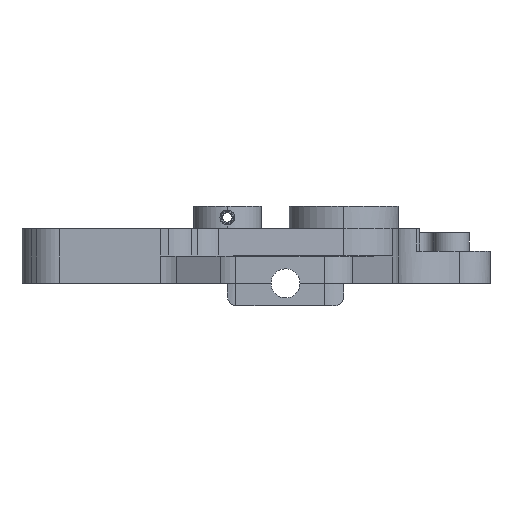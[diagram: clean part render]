
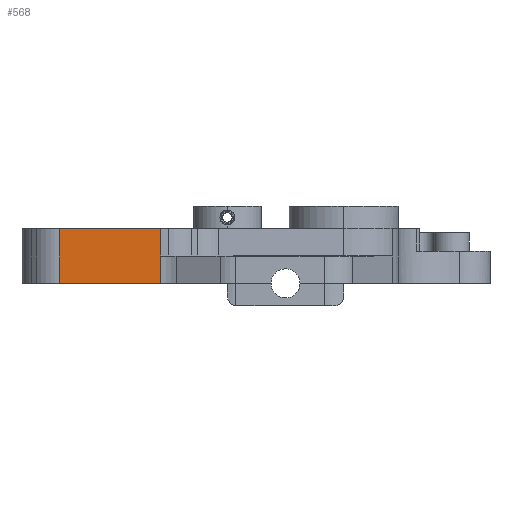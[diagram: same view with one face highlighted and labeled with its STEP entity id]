
A CAD part, left-side view. The second image highlights one B-rep face of the part: STEP entity #568.
In plain terms, the highlighted planar face has unit normal (-1, 0, 0).
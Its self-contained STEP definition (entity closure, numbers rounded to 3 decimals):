
#568=ADVANCED_FACE('',(#1134),#9041,.T.);
#1134=FACE_OUTER_BOUND('',#1805,.T.);
#1805=EDGE_LOOP('',(#4281,#4282,#4283,#4284,#4285));
#4281=ORIENTED_EDGE('',*,*,#5846,.F.);
#4282=ORIENTED_EDGE('',*,*,#5843,.F.);
#4283=ORIENTED_EDGE('',*,*,#5845,.T.);
#4284=ORIENTED_EDGE('',*,*,#6059,.F.);
#4285=ORIENTED_EDGE('',*,*,#6021,.F.);
#5843=EDGE_CURVE('',#8479,#8480,#7427,.T.);
#5845=EDGE_CURVE('',#8479,#8591,#7429,.T.);
#5846=EDGE_CURVE('',#8480,#8594,#7430,.T.);
#6021=EDGE_CURVE('',#8594,#8614,#7550,.T.);
#6059=EDGE_CURVE('',#8614,#8591,#7587,.T.);
#7427=(
BOUNDED_CURVE()
B_SPLINE_CURVE(1,(#15830,#15831),.UNSPECIFIED.,.F.,.F.)
B_SPLINE_CURVE_WITH_KNOTS((2,2),(0.,17.),.UNSPECIFIED.)
CURVE()
GEOMETRIC_REPRESENTATION_ITEM()
RATIONAL_B_SPLINE_CURVE((1.,1.))
REPRESENTATION_ITEM('')
);
#7429=(
BOUNDED_CURVE()
B_SPLINE_CURVE(2,(#15835,#15836,#15837),.UNSPECIFIED.,.F.,.F.)
B_SPLINE_CURVE_WITH_KNOTS((3,3),(377.29,378.83),
 .UNSPECIFIED.)
CURVE()
GEOMETRIC_REPRESENTATION_ITEM()
RATIONAL_B_SPLINE_CURVE((1.,1.,1.))
REPRESENTATION_ITEM('')
);
#7430=(
BOUNDED_CURVE()
B_SPLINE_CURVE(2,(#15838,#15839,#15840),.UNSPECIFIED.,.F.,.F.)
B_SPLINE_CURVE_WITH_KNOTS((3,3),(377.29,378.83),
 .UNSPECIFIED.)
CURVE()
GEOMETRIC_REPRESENTATION_ITEM()
RATIONAL_B_SPLINE_CURVE((1.,1.,1.))
REPRESENTATION_ITEM('')
);
#7550=(
BOUNDED_CURVE()
B_SPLINE_CURVE(1,(#16433,#16434),.UNSPECIFIED.,.F.,.F.)
B_SPLINE_CURVE_WITH_KNOTS((2,2),(0.,8.5),.UNSPECIFIED.)
CURVE()
GEOMETRIC_REPRESENTATION_ITEM()
RATIONAL_B_SPLINE_CURVE((1.,1.))
REPRESENTATION_ITEM('')
);
#7587=(
BOUNDED_CURVE()
B_SPLINE_CURVE(1,(#16552,#16553),.UNSPECIFIED.,.F.,.F.)
B_SPLINE_CURVE_WITH_KNOTS((2,2),(8.5,17.),
 .UNSPECIFIED.)
CURVE()
GEOMETRIC_REPRESENTATION_ITEM()
RATIONAL_B_SPLINE_CURVE((1.,1.))
REPRESENTATION_ITEM('')
);
#8479=VERTEX_POINT('',#14698);
#8480=VERTEX_POINT('',#14699);
#8591=VERTEX_POINT('',#14810);
#8594=VERTEX_POINT('',#14813);
#8614=VERTEX_POINT('',#14833);
#9041=PLANE('',#9876);
#9876=AXIS2_PLACEMENT_3D('',#14217,#10404,$);
#10404=DIRECTION('',(-1.,0.,0.));
#14217=CARTESIAN_POINT('',(-115.664,70.251,-10.));
#14698=CARTESIAN_POINT('',(-115.664,70.251,-10.));
#14699=CARTESIAN_POINT('',(-115.664,70.251,7.));
#14810=CARTESIAN_POINT('',(-115.664,38.806,-10.));
#14813=CARTESIAN_POINT('',(-115.664,38.806,7.));
#14833=CARTESIAN_POINT('',(-115.664,38.806,-1.5));
#15830=CARTESIAN_POINT('',(-115.664,70.251,-10.));
#15831=CARTESIAN_POINT('',(-115.664,70.251,7.));
#15835=CARTESIAN_POINT('',(-115.664,70.251,-10.));
#15836=CARTESIAN_POINT('',(-115.664,54.528,-10.));
#15837=CARTESIAN_POINT('',(-115.664,38.806,-10.));
#15838=CARTESIAN_POINT('',(-115.664,70.251,7.));
#15839=CARTESIAN_POINT('',(-115.664,54.528,7.));
#15840=CARTESIAN_POINT('',(-115.664,38.806,7.));
#16433=CARTESIAN_POINT('',(-115.664,38.806,7.));
#16434=CARTESIAN_POINT('',(-115.664,38.806,-1.5));
#16552=CARTESIAN_POINT('',(-115.664,38.806,-1.5));
#16553=CARTESIAN_POINT('',(-115.664,38.806,-10.));
